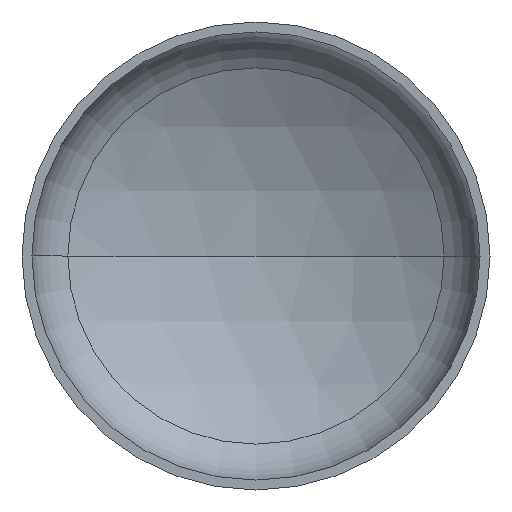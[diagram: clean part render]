
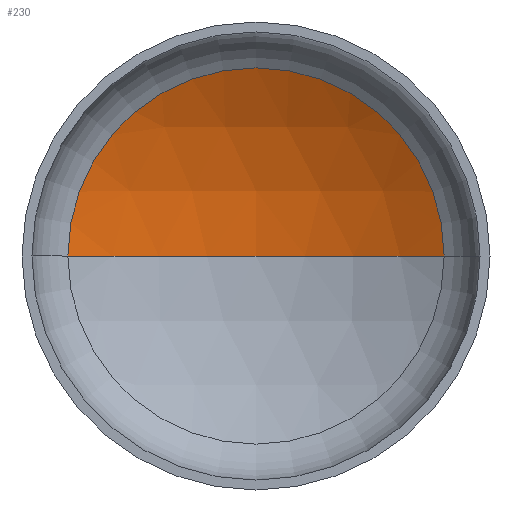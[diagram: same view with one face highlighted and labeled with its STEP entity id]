
A CAD part, front view. The second image highlights one B-rep face of the part: STEP entity #230.
In plain terms, the highlighted spherical face has radius 2720 mm.
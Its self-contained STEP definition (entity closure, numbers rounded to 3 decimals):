
#9 = ORIENTED_EDGE ( 'NONE', *, *, #62, .T. ) ;
#20 = ORIENTED_EDGE ( 'NONE', *, *, #64, .F. ) ;
#24 = AXIS2_PLACEMENT_3D ( 'NONE', #213, #209, #240 ) ;
#26 = AXIS2_PLACEMENT_3D ( 'NONE', #216, #147, #36 ) ;
#27 = AXIS2_PLACEMENT_3D ( 'NONE', #165, #120, #328 ) ;
#30 = AXIS2_PLACEMENT_3D ( 'NONE', #181, #177, #179 ) ;
#34 = VERTEX_POINT ( 'NONE', #224 ) ;
#36 = DIRECTION ( 'NONE',  ( 1., 0., 0. ) ) ;
#59 = CIRCLE ( 'NONE', #27, 2720. ) ;
#62 = EDGE_CURVE ( 'NONE', #34, #170, #140, .T. ) ;
#63 = EDGE_CURVE ( 'NONE', #347, #34, #59, .T. ) ;
#64 = EDGE_CURVE ( 'NONE', #347, #170, #289, .T. ) ;
#104 = CARTESIAN_POINT ( 'NONE',  ( 0., 942.26, 0. ) ) ;
#113 = ORIENTED_EDGE ( 'NONE', *, *, #63, .T. ) ;
#119 = SPHERICAL_SURFACE ( 'NONE', #24, 2720. ) ;
#120 = DIRECTION ( 'NONE',  ( 0., 0., -1. ) ) ;
#140 = CIRCLE ( 'NONE', #30, 1366.815 ) ;
#147 = DIRECTION ( 'NONE',  ( 0., 0., 1. ) ) ;
#165 = CARTESIAN_POINT ( 'NONE',  ( 0., -1777.74, 0. ) ) ;
#170 = VERTEX_POINT ( 'NONE', #171 ) ;
#171 = CARTESIAN_POINT ( 'NONE',  ( -1366.815, 573.901, 0. ) ) ;
#177 = DIRECTION ( 'NONE',  ( 0., -1., 0. ) ) ;
#179 = DIRECTION ( 'NONE',  ( 1., 0., 0. ) ) ;
#181 = CARTESIAN_POINT ( 'NONE',  ( 0., 573.901, 0. ) ) ;
#202 = FACE_OUTER_BOUND ( 'NONE', #265, .T. ) ;
#209 = DIRECTION ( 'NONE',  ( 0., 0., -1. ) ) ;
#213 = CARTESIAN_POINT ( 'NONE',  ( 0., -1777.74, 0. ) ) ;
#216 = CARTESIAN_POINT ( 'NONE',  ( 0., -1777.74, 0. ) ) ;
#224 = CARTESIAN_POINT ( 'NONE',  ( 1366.815, 573.901, 0. ) ) ;
#230 = ADVANCED_FACE ( 'NONE', ( #202 ), #119, .F. ) ;
#240 = DIRECTION ( 'NONE',  ( -1., 0., 0. ) ) ;
#265 = EDGE_LOOP ( 'NONE', ( #20, #113, #9 ) ) ;
#289 = CIRCLE ( 'NONE', #26, 2720. ) ;
#328 = DIRECTION ( 'NONE',  ( -1., 0., 0. ) ) ;
#347 = VERTEX_POINT ( 'NONE', #104 ) ;
